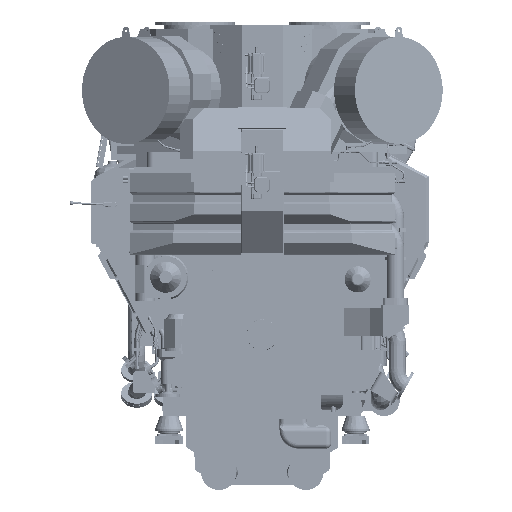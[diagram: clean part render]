
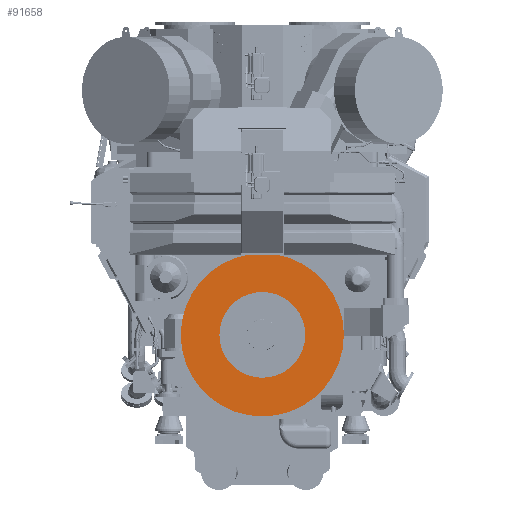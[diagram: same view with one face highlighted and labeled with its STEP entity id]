
A CAD part, left-side view. The second image highlights one B-rep face of the part: STEP entity #91658.
In plain terms, the highlighted planar face has unit normal (-1, 0, 0).
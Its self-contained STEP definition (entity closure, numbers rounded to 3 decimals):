
#32261=PLANE('',#306716);
#91658=ADVANCED_FACE('',(#115385,#115386),#32261,.F.);
#115385=FACE_BOUND('',#122736,.T.);
#115386=FACE_BOUND('',#122737,.T.);
#122736=EDGE_LOOP('',(#145439));
#122737=EDGE_LOOP('',(#145440));
#145439=ORIENTED_EDGE('',*,*,#255441,.T.);
#145440=ORIENTED_EDGE('',*,*,#255439,.F.);
#227791=VERTEX_POINT('',#420311);
#227793=VERTEX_POINT('',#420316);
#255439=EDGE_CURVE('',#227791,#227791,#296593,.T.);
#255441=EDGE_CURVE('',#227793,#227793,#296595,.T.);
#296593=CIRCLE('',#306712,656.);
#296595=CIRCLE('',#306715,345.);
#306712=AXIS2_PLACEMENT_3D('',#420310,#335705,#335706);
#306715=AXIS2_PLACEMENT_3D('',#420315,#335711,#335712);
#306716=AXIS2_PLACEMENT_3D('',#420317,#335713,#335714);
#335705=DIRECTION('',(1.,0.,0.));
#335706=DIRECTION('',(0.,1.,0.));
#335711=DIRECTION('',(1.,0.,0.));
#335712=DIRECTION('',(0.,1.,0.));
#335713=DIRECTION('',(1.,0.,0.));
#335714=DIRECTION('',(0.,0.,-1.));
#420310=CARTESIAN_POINT('',(0.,0.,0.));
#420311=CARTESIAN_POINT('',(0.,656.,0.));
#420315=CARTESIAN_POINT('',(0.,0.,0.));
#420316=CARTESIAN_POINT('',(0.,345.,0.));
#420317=CARTESIAN_POINT('',(0.,0.,0.));
